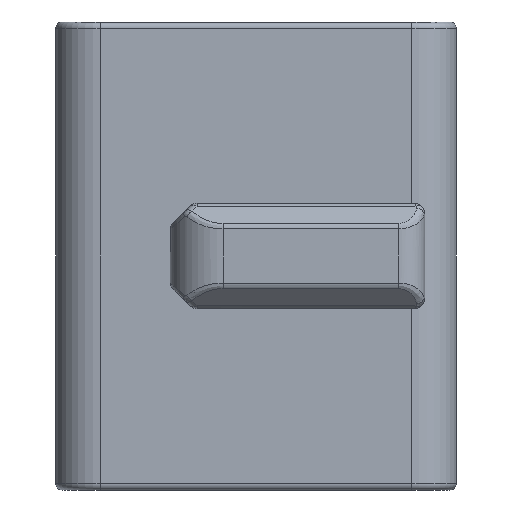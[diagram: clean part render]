
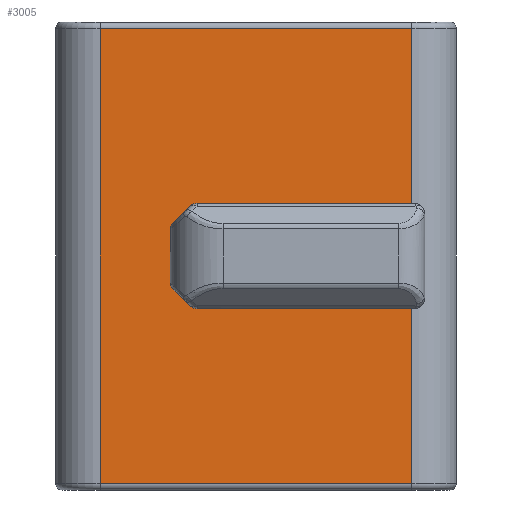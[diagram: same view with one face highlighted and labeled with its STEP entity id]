
A CAD part, front view. The second image highlights one B-rep face of the part: STEP entity #3005.
In plain terms, the highlighted planar face has unit normal (0, -1, 0).
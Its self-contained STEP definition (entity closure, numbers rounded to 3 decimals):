
#702=DIRECTION('',(1.,0.,0.));
#703=VECTOR('',#702,10.669);
#704=CARTESIAN_POINT('',(-4.469,-13.5,14.75));
#705=LINE('',#704,#703);
#709=DIRECTION('',(0.,0.,1.));
#710=VECTOR('',#709,4.103);
#711=CARTESIAN_POINT('',(-6.5,-13.5,8.699));
#712=LINE('',#711,#710);
#716=DIRECTION('',(1.,0.,0.));
#717=VECTOR('',#716,10.669);
#718=CARTESIAN_POINT('',(-4.469,-13.5,6.75));
#719=LINE('',#718,#717);
#723=DIRECTION('',(0.,0.,1.));
#724=VECTOR('',#723,6.4);
#725=CARTESIAN_POINT('',(7.,-13.5,7.55));
#726=LINE('',#725,#724);
#730=DIRECTION('',(1.,0.,0.));
#731=VECTOR('',#730,23.6);
#732=CARTESIAN_POINT('',(-11.8,-13.5,28.));
#733=LINE('',#732,#731);
#737=DIRECTION('',(0.,0.,-1.));
#738=VECTOR('',#737,34.5);
#739=CARTESIAN_POINT('',(11.8,-13.5,28.));
#740=LINE('',#739,#738);
#744=DIRECTION('',(-1.,0.,0.));
#745=VECTOR('',#744,23.6);
#746=CARTESIAN_POINT('',(11.8,-13.5,-6.5));
#747=LINE('',#746,#745);
#751=DIRECTION('',(0.,0.,-1.));
#752=VECTOR('',#751,34.5);
#753=CARTESIAN_POINT('',(-11.8,-13.5,28.));
#754=LINE('',#753,#752);
#1050=CARTESIAN_POINT('',(-4.469,-13.5,7.55));
#1051=DIRECTION('',(0.,1.,0.));
#1052=DIRECTION('',(0.,0.,-1.));
#1053=AXIS2_PLACEMENT_3D('',#1050,#1051,#1052);
#1065=DIRECTION('',(-0.707,0.,0.707));
#1066=VECTOR('',#1065,1.824);
#1067=CARTESIAN_POINT('',(-5.034,-13.5,6.984));
#1068=LINE('',#1067,#1066);
#1106=CARTESIAN_POINT('',(-5.9,-13.5,8.699));
#1107=DIRECTION('',(0.,1.,0.));
#1108=DIRECTION('',(-0.707,0.,-0.707));
#1109=AXIS2_PLACEMENT_3D('',#1106,#1107,#1108);
#1143=CARTESIAN_POINT('',(-5.9,-13.5,12.801));
#1144=DIRECTION('',(0.,1.,0.));
#1145=DIRECTION('',(-1.,0.,0.));
#1146=AXIS2_PLACEMENT_3D('',#1143,#1144,#1145);
#1177=DIRECTION('',(0.707,0.,0.707));
#1178=VECTOR('',#1177,1.824);
#1179=CARTESIAN_POINT('',(-6.324,-13.5,13.226));
#1180=LINE('',#1179,#1178);
#1445=CARTESIAN_POINT('',(6.2,-13.5,13.95));
#1446=DIRECTION('',(0.,1.,0.));
#1447=DIRECTION('',(0.,0.,1.));
#1448=AXIS2_PLACEMENT_3D('',#1445,#1446,#1447);
#1474=CARTESIAN_POINT('',(6.2,-13.5,7.55));
#1475=DIRECTION('',(0.,1.,0.));
#1476=DIRECTION('',(1.,0.,0.));
#1477=AXIS2_PLACEMENT_3D('',#1474,#1475,#1476);
#1947=CARTESIAN_POINT('',(-4.469,-13.5,13.95));
#1948=DIRECTION('',(0.,1.,0.));
#1949=DIRECTION('',(-0.707,0.,0.707));
#1950=AXIS2_PLACEMENT_3D('',#1947,#1948,#1949);
#2190=CARTESIAN_POINT('',(7.,-13.5,13.95));
#2192=VERTEX_POINT('',#2190);
#2194=CARTESIAN_POINT('',(6.2,-13.5,14.75));
#2196=VERTEX_POINT('',#2194);
#2231=CARTESIAN_POINT('',(6.2,-13.5,6.75));
#2233=VERTEX_POINT('',#2231);
#2235=CARTESIAN_POINT('',(7.,-13.5,7.55));
#2237=VERTEX_POINT('',#2235);
#2256=CARTESIAN_POINT('',(-4.469,-13.5,6.75));
#2257=VERTEX_POINT('',#2256);
#2258=CARTESIAN_POINT('',(-4.469,-13.5,14.75));
#2259=VERTEX_POINT('',#2258);
#2282=CARTESIAN_POINT('',(-11.8,-13.5,28.));
#2283=VERTEX_POINT('',#2282);
#2286=CARTESIAN_POINT('',(11.8,-13.5,28.));
#2287=VERTEX_POINT('',#2286);
#2297=CARTESIAN_POINT('',(11.8,-13.5,-6.5));
#2299=VERTEX_POINT('',#2297);
#2302=CARTESIAN_POINT('',(-11.8,-13.5,-6.5));
#2303=VERTEX_POINT('',#2302);
#2361=CARTESIAN_POINT('',(-6.324,-13.5,13.226));
#2363=VERTEX_POINT('',#2361);
#2365=CARTESIAN_POINT('',(-6.5,-13.5,12.801));
#2367=VERTEX_POINT('',#2365);
#2369=CARTESIAN_POINT('',(-6.5,-13.5,8.699));
#2371=VERTEX_POINT('',#2369);
#2373=CARTESIAN_POINT('',(-6.324,-13.5,8.274));
#2375=VERTEX_POINT('',#2373);
#2380=CARTESIAN_POINT('',(-5.034,-13.5,14.516));
#2381=VERTEX_POINT('',#2380);
#2384=CARTESIAN_POINT('',(-5.034,-13.5,6.984));
#2386=VERTEX_POINT('',#2384);
#2966=CARTESIAN_POINT('',(-15.2,-13.5,-7.));
#2967=DIRECTION('',(0.,-1.,0.));
#2968=DIRECTION('',(1.,0.,0.));
#2969=AXIS2_PLACEMENT_3D('',#2966,#2967,#2968);
#2970=PLANE('',#2969);
#2972=ORIENTED_EDGE('',*,*,#2971,.T.);
#2973=ORIENTED_EDGE('',*,*,#2961,.T.);
#2974=ORIENTED_EDGE('',*,*,#2437,.T.);
#2976=ORIENTED_EDGE('',*,*,#2975,.F.);
#2977=EDGE_LOOP('',(#2972,#2973,#2974,#2976));
#2978=FACE_OUTER_BOUND('',#2977,.F.);
#2980=ORIENTED_EDGE('',*,*,#2979,.F.);
#2982=ORIENTED_EDGE('',*,*,#2981,.F.);
#2984=ORIENTED_EDGE('',*,*,#2983,.F.);
#2986=ORIENTED_EDGE('',*,*,#2985,.F.);
#2988=ORIENTED_EDGE('',*,*,#2987,.F.);
#2990=ORIENTED_EDGE('',*,*,#2989,.F.);
#2992=ORIENTED_EDGE('',*,*,#2991,.F.);
#2994=ORIENTED_EDGE('',*,*,#2993,.F.);
#2996=ORIENTED_EDGE('',*,*,#2995,.T.);
#2998=ORIENTED_EDGE('',*,*,#2997,.F.);
#3000=ORIENTED_EDGE('',*,*,#2999,.T.);
#3002=ORIENTED_EDGE('',*,*,#3001,.F.);
#3003=EDGE_LOOP('',(#2980,#2982,#2984,#2986,#2988,#2990,#2992,#2994,#2996,#2998,
#3000,#3002));
#3004=FACE_BOUND('',#3003,.F.);
#1054=CIRCLE('',#1053,0.8);
#1110=CIRCLE('',#1109,0.6);
#1147=CIRCLE('',#1146,0.6);
#1449=CIRCLE('',#1448,0.8);
#1478=CIRCLE('',#1477,0.8);
#1951=CIRCLE('',#1950,0.8);
#2437=EDGE_CURVE('',#2299,#2303,#747,.T.);
#2961=EDGE_CURVE('',#2287,#2299,#740,.T.);
#2971=EDGE_CURVE('',#2283,#2287,#733,.T.);
#2975=EDGE_CURVE('',#2283,#2303,#754,.T.);
#2979=EDGE_CURVE('',#2259,#2196,#705,.T.);
#2981=EDGE_CURVE('',#2381,#2259,#1951,.T.);
#2983=EDGE_CURVE('',#2363,#2381,#1180,.T.);
#2985=EDGE_CURVE('',#2367,#2363,#1147,.T.);
#2987=EDGE_CURVE('',#2371,#2367,#712,.T.);
#2989=EDGE_CURVE('',#2375,#2371,#1110,.T.);
#2991=EDGE_CURVE('',#2386,#2375,#1068,.T.);
#2993=EDGE_CURVE('',#2257,#2386,#1054,.T.);
#2995=EDGE_CURVE('',#2257,#2233,#719,.T.);
#2997=EDGE_CURVE('',#2237,#2233,#1478,.T.);
#2999=EDGE_CURVE('',#2237,#2192,#726,.T.);
#3001=EDGE_CURVE('',#2196,#2192,#1449,.T.);
#3005=ADVANCED_FACE('',(#2978,#3004),#2970,.T.);
